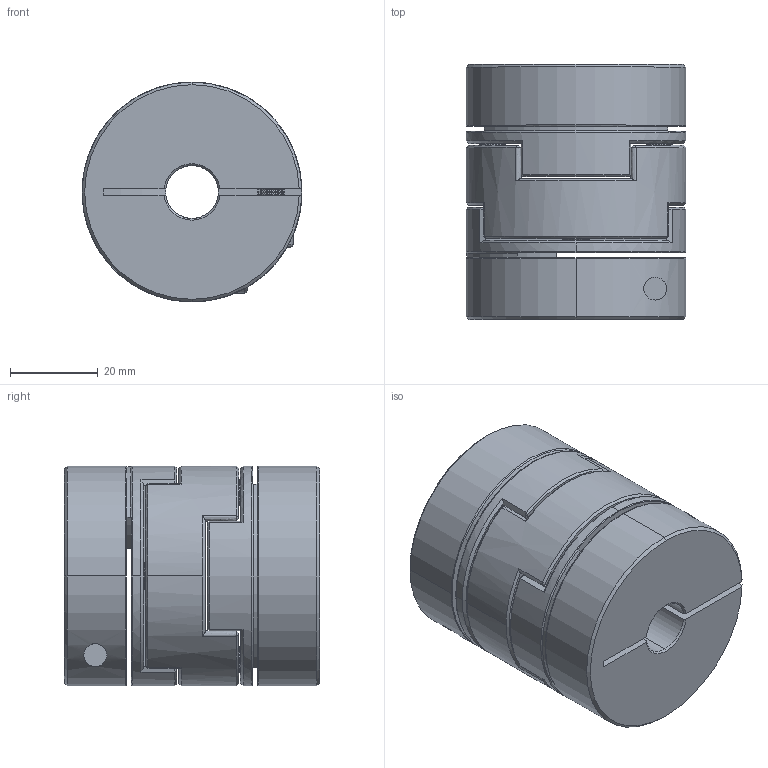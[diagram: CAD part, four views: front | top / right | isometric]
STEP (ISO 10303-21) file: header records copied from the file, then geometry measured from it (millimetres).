
FILE_DESCRIPTION (( 'STEP AP203' ), '1' );
FILE_NAME ('LZ-B-D50L58-12-18.STEP', '2021-10-29T07:28:15', ( '' ), ( '' ), 'SwSTEP 2.0', 'SolidWorks 2018', '' );
FILE_SCHEMA (( 'CONFIG_CONTROL_DESIGN' ));
Length unit declared in the file: millimetre
Products named in the file (1): LZ-B-D50L58-12-18
Bounding box: 50 x 58 x 50 mm (x, y, z)
Volume: 93988.6 mm3; surface area: 30121 mm2
Topology: 1 solids, 27 shells, 560 faces, 1364 edges, 810 vertices
Faces by surface type: cone 252, cylinder 160, plane 90, bspline 54, torus 4
Entity records: 17422 total; most frequent: CARTESIAN_POINT 4342, DIRECTION 2782, ORIENTED_EDGE 2720, EDGE_CURVE 1360, AXIS2_PLACEMENT_3D 1123, VERTEX_POINT 810, CIRCLE 616, EDGE_LOOP 594
